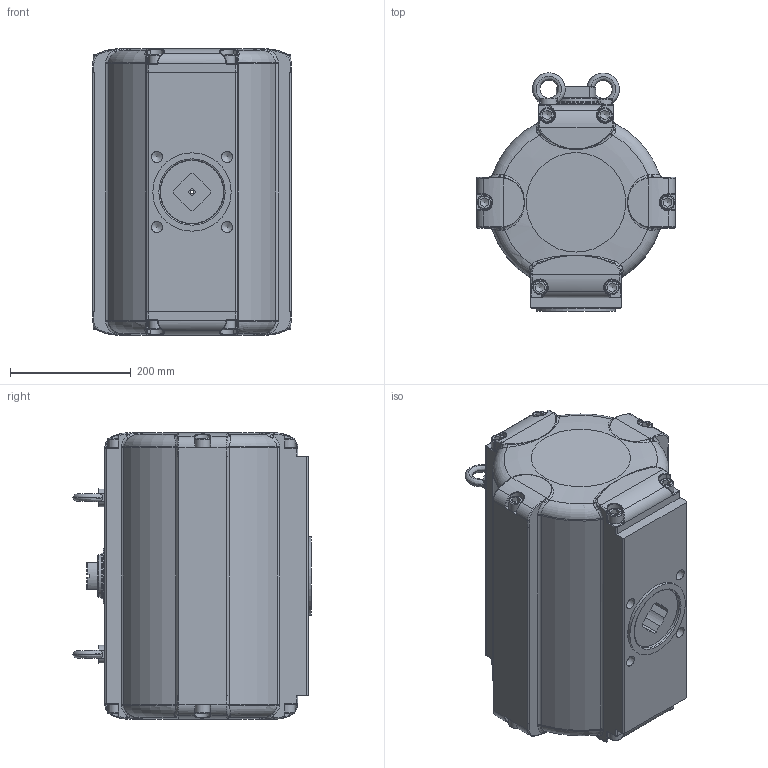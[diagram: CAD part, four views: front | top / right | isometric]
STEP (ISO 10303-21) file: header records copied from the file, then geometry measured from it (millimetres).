
FILE_DESCRIPTION(/* description */ (''),/* implementation_level */ '2;1');
FILE_NAME(/* name */ 'C:\Users\war\Desktop\BR03C_SAD_45.stp',/* time_stamp */ '2021-05-05T10:33:04+02:00',/* author */ ('war'),/* organization */ (''),/* preprocessor_version */ 'ST-DEVELOPER v18.1',/* originating_system */ 'Autodesk Inventor 2021',/* authorisation */ '');
FILE_SCHEMA (('AUTOMOTIVE_DESIGN { 1 0 10303 214 3 1 1 }'));
Products named in the file (1): ENG-074645_Shrinkwrap_1
Bounding box: 330 x 395 x 475 mm (x, y, z)
Volume: 14263769.2 mm3; surface area: 1490864 mm2
Topology: 1 solids, 1 shells, 1743 faces, 4360 edges, 2652 vertices
Faces by surface type: cylinder 497, bspline 445, plane 372, torus 368, cone 61
Full cylindrical faces by diameter (mm): 3 x2, 4.134 x4, 4.917 x5, 10 x2, 10.106 x1, 16 x2, 18.376 x4, 18.631 x2, 24 x12, 40 x4, 63.1 x1, 65 x2, 66 x1, 69.8 x3, 70 x2, 70.1 x1, 80 x1, 85 x1, 90 x1, 99.1 x1, 101 x1, 105.8 x3, 106 x1, 130 x1, 266 x1, 270 x2
Entity records: 83109 total; most frequent: CARTESIAN_POINT 43058, ORIENTED_EDGE 8636, DIRECTION 7128, EDGE_CURVE 4318, AXIS2_PLACEMENT_3D 3026, VERTEX_POINT 2652, EDGE_LOOP 1832, STYLED_ITEM 1744
